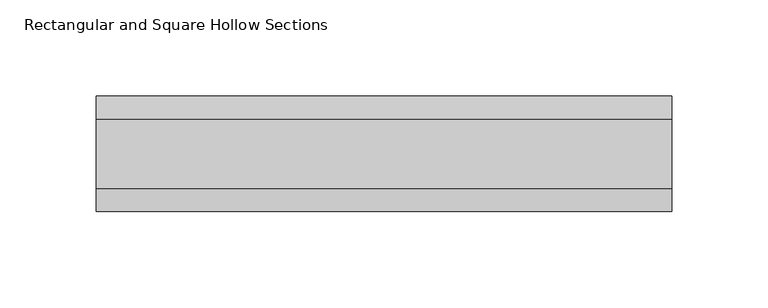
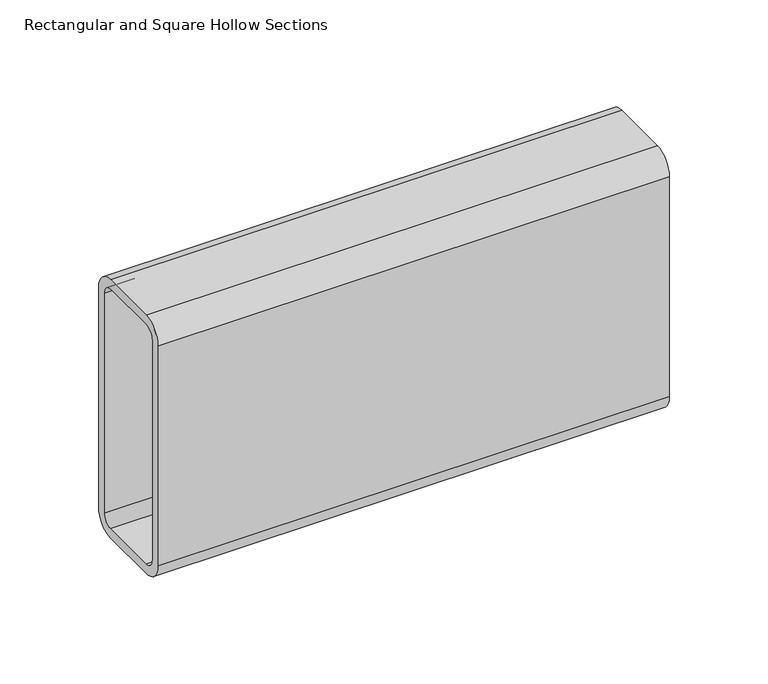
"""IFC4 building model written with IfcOpenShell, lengths in millimetres: beam geometry, Rectangular and Square Hollow Sections : TREC160x60x6."""

from ifc_helpers import new_model, si_unit, point, frame, frame_2d, origin, place, context, project, spatial, polyline, circle_curve, trimmed, segment, composite_curve, outline, extrude, source, transform, mapped, element, save


def rectangular_and_square_hollow_sections_dfd63e79(model_context):
    return source(origin(), model_context, "Body", "SweptSolid", [
        extrude(outline(composite_curve([segment(polyline([(30.0, 68.0), (30.0, -68.0)]), True, "CONTINUOUS"), segment(trimmed(circle_curve(frame_2d((18.0, -68.0)), 12.0), [point((30.0, -68.0))], [point((18.0, -80.0))], False, "CARTESIAN"), True, "CONTINUOUS"), segment(polyline([(18.0, -80.0), (-18.0, -80.0)]), True, "CONTINUOUS"), segment(trimmed(circle_curve(frame_2d((-18.0, -68.0)), 12.0), [point((-18.0, -80.0))], [point((-30.0, -68.0))], False, "CARTESIAN"), True, "CONTINUOUS"), segment(polyline([(-30.0, -68.0), (-30.0, 68.0)]), True, "CONTINUOUS"), segment(trimmed(circle_curve(frame_2d((-18.0, 68.0)), 12.0), [point((-30.0, 68.0))], [point((-18.0, 80.0))], False, "CARTESIAN"), True, "CONTINUOUS"), segment(polyline([(-18.0, 80.0), (18.0, 80.0)]), True, "CONTINUOUS"), segment(trimmed(circle_curve(frame_2d((18.0, 68.0)), 12.0), [point((18.0, 80.0))], [point((30.0, 68.0))], False, "CARTESIAN"), True, "CONTINUOUS")], self_intersect=False), holes=[composite_curve([segment(trimmed(circle_curve(frame_2d((-18.0, 68.0)), 6.0), [point((-18.0, 74.0))], [point((-24.0, 68.0))], True, "CARTESIAN"), True, "CONTINUOUS"), segment(polyline([(-24.0, 68.0), (-24.0, -68.0)]), True, "CONTINUOUS"), segment(trimmed(circle_curve(frame_2d((-18.0, -68.0)), 6.0), [point((-24.0, -68.0))], [point((-18.0, -74.0))], True, "CARTESIAN"), True, "CONTINUOUS"), segment(polyline([(-18.0, -74.0), (18.0, -74.0)]), True, "CONTINUOUS"), segment(trimmed(circle_curve(frame_2d((18.0, -68.0)), 6.0), [point((18.0, -74.0))], [point((24.0, -68.0))], True, "CARTESIAN"), True, "CONTINUOUS"), segment(polyline([(24.0, -68.0), (24.0, 68.0)]), True, "CONTINUOUS"), segment(trimmed(circle_curve(frame_2d((18.0, 68.0)), 6.0), [point((24.0, 68.0))], [point((18.0, 74.0))], True, "CARTESIAN"), True, "CONTINUOUS"), segment(polyline([(18.0, 74.0), (-18.0, 74.0)]), True, "CONTINUOUS")], self_intersect=False)]), frame((-156.0, 0.0, 0.0), z_axis=(1.0, 0.0, 0.0), x_axis=(0.0, 1.0, 0.0)), (0.0, 0.0, 1.0), 299.0),
    ])


if __name__ == "__main__":
    model = new_model("IFC4")
    model_context = context("Model", 3, world=origin())
    ifc_project = project(units=[si_unit("LENGTHUNIT", "METRE", prefix="MILLI")], contexts=[model_context])
    site = spatial("IfcSite", under=ifc_project)
    building = spatial("IfcBuilding", under=site)
    placement = place(None, origin())
    rectangular_and_square_hollow_sections_shape = rectangular_and_square_hollow_sections_dfd63e79(model_context)
    element("IfcBeam", 1, ObjectType="Rectangular and Square Hollow Sections : TREC160x60x6", at=placement, inside=building, context=model_context, shape_type="MappedRepresentation", body=[
        mapped(rectangular_and_square_hollow_sections_shape, transform((0.0, 0.0, 0.0), x_axis=(1.0, 0.0, 0.0), y_axis=(0.0, 1.0, 0.0), z_axis=(0.0, 0.0, 1.0))),
    ])
    save(model, "model.ifc")
